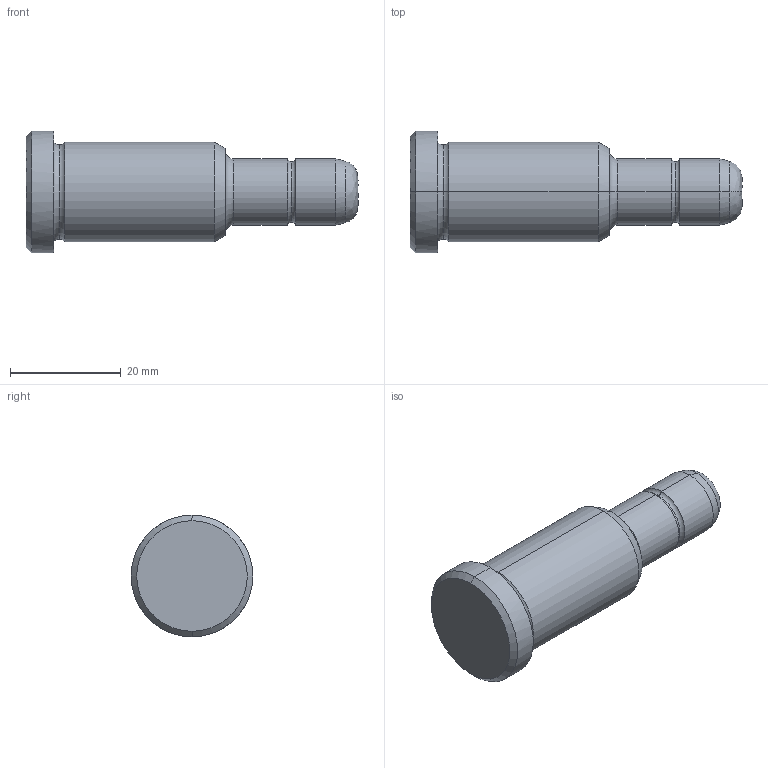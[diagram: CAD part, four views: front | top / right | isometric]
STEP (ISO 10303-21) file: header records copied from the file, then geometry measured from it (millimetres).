
FILE_DESCRIPTION(('CATIA V5 STEP Exchange'),'2;1');
FILE_NAME('C:\Users\Utente\Desktop\IO LAVORO\3D X SITO CF\X SITO\PLASTICA\351\351-12X36X60.stp','2021-08-17T12:30:58+00:00',('none'),('none'),'CATIA Version 5 Release 20 GA (IN-10)','CATIA V5 STEP AP203','none');
FILE_SCHEMA(('CONFIG_CONTROL_DESIGN'));
Length unit declared in the file: millimetre
Products named in the file (1): 351-12X36X60
Bounding box: 60 x 22 x 22 mm (x, y, z)
Volume: 12262.3 mm3; surface area: 3603.5 mm2
Topology: 1 solids, 1 shells, 30 faces, 86 edges, 60 vertices
Faces by surface type: torus 10, cylinder 8, cone 6, plane 4, bspline 2
Entity records: 1128 total; most frequent: CARTESIAN_POINT 343, ORIENTED_EDGE 172, DIRECTION 124, EDGE_CURVE 86, AXIS2_PLACEMENT_3D 83, VERTEX_POINT 60, CIRCLE 54, EDGE_LOOP 32
